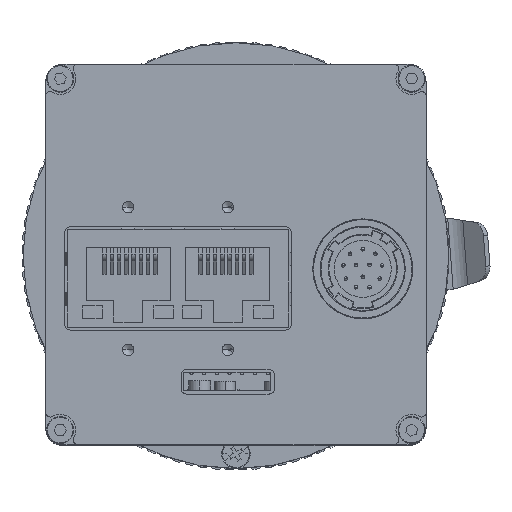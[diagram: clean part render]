
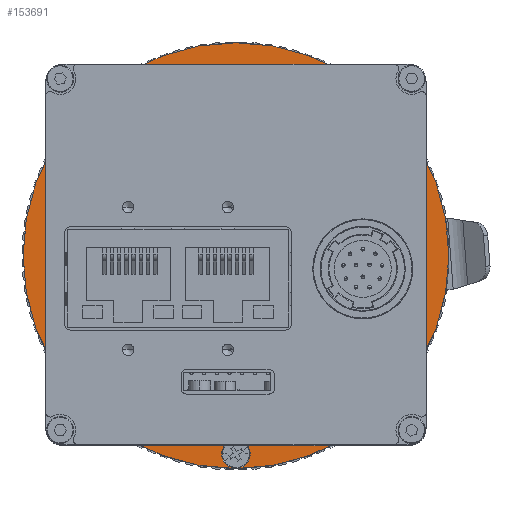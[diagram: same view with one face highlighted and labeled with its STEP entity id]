
A CAD part, top view. The second image highlights one B-rep face of the part: STEP entity #153691.
In plain terms, the highlighted planar face has unit normal (0, 0, 1).
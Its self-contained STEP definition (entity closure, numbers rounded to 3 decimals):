
#397 = AXIS2_PLACEMENT_3D ( 'NONE', #13367, #103529, #26303 ) ;
#1247 = CIRCLE ( 'NONE', #140097, 2. ) ;
#1286 = EDGE_CURVE ( 'NONE', #128347, #126507, #1247, .T. ) ;
#1553 = CARTESIAN_POINT ( 'NONE',  ( 26.076, -13.9, 1.5 ) ) ;
#1572 = DIRECTION ( 'NONE',  ( 0., 0., -1. ) ) ;
#2563 = CARTESIAN_POINT ( 'NONE',  ( 0., 0., 1.5 ) ) ;
#5856 = DIRECTION ( 'NONE',  ( 1., 0., 0. ) ) ;
#6504 = CIRCLE ( 'NONE', #147502, 29.85 ) ;
#7990 = CARTESIAN_POINT ( 'NONE',  ( -22.076, -13.9, 1.5 ) ) ;
#10085 = CIRCLE ( 'NONE', #397, 2. ) ;
#10092 = DIRECTION ( 'NONE',  ( -1., 0., 0. ) ) ;
#10830 = VERTEX_POINT ( 'NONE', #82917 ) ;
#13367 = CARTESIAN_POINT ( 'NONE',  ( 24.076, -13.9, 1.5 ) ) ;
#13868 = FACE_BOUND ( 'NONE', #115632, .T. ) ;
#15085 = DIRECTION ( 'NONE',  ( 0., 0., -1. ) ) ;
#15573 = DIRECTION ( 'NONE',  ( -1., 0., 0. ) ) ;
#15838 = AXIS2_PLACEMENT_3D ( 'NONE', #73133, #163229, #86130 ) ;
#17453 = DIRECTION ( 'NONE',  ( 0., 0., 1. ) ) ;
#17891 = FACE_BOUND ( 'NONE', #36064, .T. ) ;
#19387 = EDGE_CURVE ( 'NONE', #126507, #128347, #84373, .T. ) ;
#21720 = CARTESIAN_POINT ( 'NONE',  ( -26.076, -13.9, 1.5 ) ) ;
#23041 = ORIENTED_EDGE ( 'NONE', *, *, #76176, .T. ) ;
#24101 = EDGE_CURVE ( 'NONE', #162503, #136970, #35116, .T. ) ;
#25371 = CARTESIAN_POINT ( 'NONE',  ( -25.75, 0., 1.5 ) ) ;
#26303 = DIRECTION ( 'NONE',  ( 1., 0., 0. ) ) ;
#30635 = DIRECTION ( 'NONE',  ( 0., 0., -1. ) ) ;
#30661 = CARTESIAN_POINT ( 'NONE',  ( 2., 27.8, 1.5 ) ) ;
#34503 = CARTESIAN_POINT ( 'NONE',  ( -24.076, -13.9, 1.5 ) ) ;
#34759 = VERTEX_POINT ( 'NONE', #118494 ) ;
#35116 = CIRCLE ( 'NONE', #165276, 2. ) ;
#36064 = EDGE_LOOP ( 'NONE', ( #144486, #140772 ) ) ;
#39031 = CARTESIAN_POINT ( 'NONE',  ( -2., 27.8, 1.5 ) ) ;
#42843 = PLANE ( 'NONE',  #66915 ) ;
#43287 = DIRECTION ( 'NONE',  ( 0., 0., -1. ) ) ;
#46278 = EDGE_LOOP ( 'NONE', ( #23041, #107272 ) ) ;
#46667 = ORIENTED_EDGE ( 'NONE', *, *, #142182, .F. ) ;
#47450 = DIRECTION ( 'NONE',  ( 1., 0., 0. ) ) ;
#47697 = EDGE_CURVE ( 'NONE', #84610, #34759, #48995, .T. ) ;
#48995 = CIRCLE ( 'NONE', #73232, 2. ) ;
#57362 = VERTEX_POINT ( 'NONE', #123930 ) ;
#58299 = ORIENTED_EDGE ( 'NONE', *, *, #47697, .T. ) ;
#63612 = AXIS2_PLACEMENT_3D ( 'NONE', #164473, #87351, #10092 ) ;
#66915 = AXIS2_PLACEMENT_3D ( 'NONE', #94634, #17453, #107574 ) ;
#66989 = EDGE_LOOP ( 'NONE', ( #162120, #101703 ) ) ;
#68053 = CIRCLE ( 'NONE', #15838, 25.75 ) ;
#70513 = CIRCLE ( 'NONE', #163780, 29.85 ) ;
#72333 = VERTEX_POINT ( 'NONE', #25371 ) ;
#73133 = CARTESIAN_POINT ( 'NONE',  ( 0., 0., 1.5 ) ) ;
#73232 = AXIS2_PLACEMENT_3D ( 'NONE', #120446, #43287, #133363 ) ;
#76176 = EDGE_CURVE ( 'NONE', #72333, #57362, #82226, .T. ) ;
#78776 = CARTESIAN_POINT ( 'NONE',  ( 0., 27.8, 1.5 ) ) ;
#82226 = CIRCLE ( 'NONE', #63612, 25.75 ) ;
#82398 = FACE_BOUND ( 'NONE', #46278, .T. ) ;
#82917 = CARTESIAN_POINT ( 'NONE',  ( 29.85, 0., 1.5 ) ) ;
#83075 = DIRECTION ( 'NONE',  ( 0., 0., -1. ) ) ;
#84373 = CIRCLE ( 'NONE', #164651, 2. ) ;
#84610 = VERTEX_POINT ( 'NONE', #1553 ) ;
#86130 = DIRECTION ( 'NONE',  ( -1., 0., 0. ) ) ;
#87351 = DIRECTION ( 'NONE',  ( 0., 0., -1. ) ) ;
#90768 = EDGE_LOOP ( 'NONE', ( #46667, #154319 ) ) ;
#91798 = DIRECTION ( 'NONE',  ( 1., 0., 0. ) ) ;
#92293 = CARTESIAN_POINT ( 'NONE',  ( 0., 27.8, 1.5 ) ) ;
#92756 = DIRECTION ( 'NONE',  ( 0., 0., -1. ) ) ;
#94634 = CARTESIAN_POINT ( 'NONE',  ( 0., 0., 1.5 ) ) ;
#101703 = ORIENTED_EDGE ( 'NONE', *, *, #19387, .T. ) ;
#103529 = DIRECTION ( 'NONE',  ( 0., 0., -1. ) ) ;
#104968 = EDGE_CURVE ( 'NONE', #57362, #72333, #68053, .T. ) ;
#105195 = DIRECTION ( 'NONE',  ( 1., 0., 0. ) ) ;
#107272 = ORIENTED_EDGE ( 'NONE', *, *, #104968, .T. ) ;
#107574 = DIRECTION ( 'NONE',  ( 1., 0., 0. ) ) ;
#107817 = CARTESIAN_POINT ( 'NONE',  ( 0., 0., 1.5 ) ) ;
#115091 = ORIENTED_EDGE ( 'NONE', *, *, #145898, .T. ) ;
#115632 = EDGE_LOOP ( 'NONE', ( #58299, #115091 ) ) ;
#116753 = FACE_OUTER_BOUND ( 'NONE', #90768, .T. ) ;
#118494 = CARTESIAN_POINT ( 'NONE',  ( 22.076, -13.9, 1.5 ) ) ;
#120446 = CARTESIAN_POINT ( 'NONE',  ( 24.076, -13.9, 1.5 ) ) ;
#120514 = EDGE_CURVE ( 'NONE', #136970, #162503, #144062, .T. ) ;
#120763 = DIRECTION ( 'NONE',  ( -1., 0., 0. ) ) ;
#123930 = CARTESIAN_POINT ( 'NONE',  ( 25.75, 0., 1.5 ) ) ;
#124572 = DIRECTION ( 'NONE',  ( 0., 0., -1. ) ) ;
#126507 = VERTEX_POINT ( 'NONE', #21720 ) ;
#127946 = VERTEX_POINT ( 'NONE', #165360 ) ;
#128347 = VERTEX_POINT ( 'NONE', #7990 ) ;
#133363 = DIRECTION ( 'NONE',  ( 1., 0., 0. ) ) ;
#136970 = VERTEX_POINT ( 'NONE', #30661 ) ;
#140097 = AXIS2_PLACEMENT_3D ( 'NONE', #34503, #124572, #47450 ) ;
#140772 = ORIENTED_EDGE ( 'NONE', *, *, #24101, .T. ) ;
#142182 = EDGE_CURVE ( 'NONE', #127946, #10830, #70513, .T. ) ;
#144062 = CIRCLE ( 'NONE', #166143, 2. ) ;
#144486 = ORIENTED_EDGE ( 'NONE', *, *, #120514, .T. ) ;
#145898 = EDGE_CURVE ( 'NONE', #34759, #84610, #10085, .T. ) ;
#147502 = AXIS2_PLACEMENT_3D ( 'NONE', #2563, #92756, #15573 ) ;
#150906 = FACE_BOUND ( 'NONE', #66989, .T. ) ;
#152432 = EDGE_CURVE ( 'NONE', #10830, #127946, #6504, .T. ) ;
#153691 = ADVANCED_FACE ( 'NONE', ( #82398, #116753, #17891, #150906, #13868 ), #42843, .T. ) ;
#154319 = ORIENTED_EDGE ( 'NONE', *, *, #152432, .F. ) ;
#160227 = CARTESIAN_POINT ( 'NONE',  ( -24.076, -13.9, 1.5 ) ) ;
#162120 = ORIENTED_EDGE ( 'NONE', *, *, #1286, .T. ) ;
#162503 = VERTEX_POINT ( 'NONE', #39031 ) ;
#163229 = DIRECTION ( 'NONE',  ( 0., 0., -1. ) ) ;
#163780 = AXIS2_PLACEMENT_3D ( 'NONE', #107817, #30635, #120763 ) ;
#164473 = CARTESIAN_POINT ( 'NONE',  ( 0., 0., 1.5 ) ) ;
#164651 = AXIS2_PLACEMENT_3D ( 'NONE', #160227, #83075, #5856 ) ;
#165276 = AXIS2_PLACEMENT_3D ( 'NONE', #78776, #1572, #91798 ) ;
#165360 = CARTESIAN_POINT ( 'NONE',  ( -29.85, 0., 1.5 ) ) ;
#166143 = AXIS2_PLACEMENT_3D ( 'NONE', #92293, #15085, #105195 ) ;
